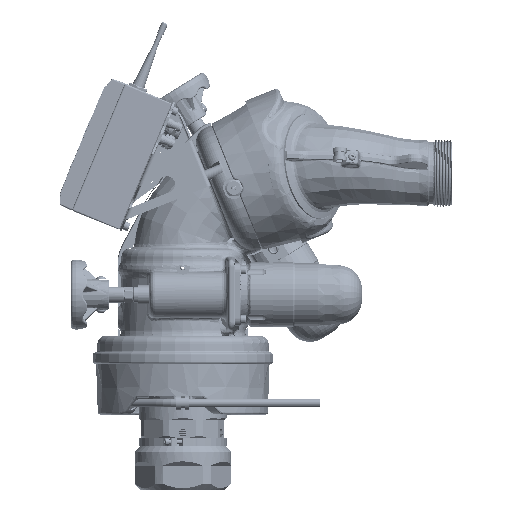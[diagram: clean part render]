
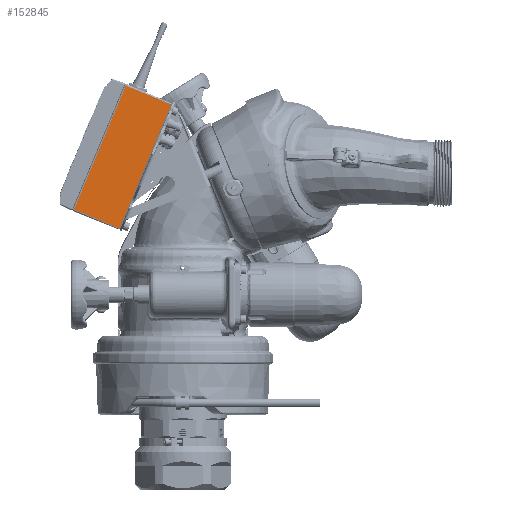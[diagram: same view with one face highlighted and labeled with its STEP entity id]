
A CAD part, top view. The second image highlights one B-rep face of the part: STEP entity #152845.
In plain terms, the highlighted planar face has unit normal (0.013, -0.005, 1).
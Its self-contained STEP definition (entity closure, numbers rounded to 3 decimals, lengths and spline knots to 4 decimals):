
#5373 = VECTOR ( 'NONE', #192568, 39.3701 ) ;
#9421 = EDGE_CURVE ( 'NONE', #116423, #166444, #163745, .T. ) ;
#10701 = CARTESIAN_POINT ( 'NONE',  ( -4.0321, 6.9424, 2.5198 ) ) ;
#17894 = CARTESIAN_POINT ( 'NONE',  ( -6.1696, 7.836, 2.5521 ) ) ;
#25824 = CARTESIAN_POINT ( 'NONE',  ( -6.4005, 1.2775, 2.5198 ) ) ;
#26499 = LINE ( 'NONE', #99726, #28866 ) ;
#28866 = VECTOR ( 'NONE', #148427, 39.3701 ) ;
#37543 = CARTESIAN_POINT ( 'NONE',  ( -8.4725, 2.1438, 2.5511 ) ) ;
#38565 = EDGE_CURVE ( 'NONE', #55718, #166444, #26499, .T. ) ;
#52022 = DIRECTION ( 'NONE',  ( -0.386, -0.923, 0. ) ) ;
#55718 = VERTEX_POINT ( 'NONE', #25824 ) ;
#55745 = ORIENTED_EDGE ( 'NONE', *, *, #38565, .F. ) ;
#63229 = PLANE ( 'NONE',  #70628 ) ;
#65390 = VECTOR ( 'NONE', #52022, 39.3701 ) ;
#65916 = DIRECTION ( 'NONE',  ( -0.923, 0.386, 0.014 ) ) ;
#70628 = AXIS2_PLACEMENT_3D ( 'NONE', #93497, #79723, #189550 ) ;
#73866 = CARTESIAN_POINT ( 'NONE',  ( -8.4725, 2.1438, 2.5511 ) ) ;
#79723 = DIRECTION ( 'NONE',  ( 0.013, -0.005, 1. ) ) ;
#82730 = CARTESIAN_POINT ( 'NONE',  ( -4.0321, 6.9424, 2.5198 ) ) ;
#84805 = LINE ( 'NONE', #17894, #153536 ) ;
#88593 = EDGE_CURVE ( 'NONE', #181859, #116423, #84805, .T. ) ;
#93497 = CARTESIAN_POINT ( 'NONE',  ( -8.5379, 2.1712, 2.5521 ) ) ;
#99726 = CARTESIAN_POINT ( 'NONE',  ( -8.5379, 2.1712, 2.5521 ) ) ;
#116423 = VERTEX_POINT ( 'NONE', #186765 ) ;
#118988 = EDGE_CURVE ( 'NONE', #55718, #181859, #160386, .T. ) ;
#144799 = EDGE_LOOP ( 'NONE', ( #55745, #147008, #171840, #159468 ) ) ;
#147008 = ORIENTED_EDGE ( 'NONE', *, *, #118988, .T. ) ;
#148427 = DIRECTION ( 'NONE',  ( -0.923, 0.386, 0.014 ) ) ;
#152845 = ADVANCED_FACE ( 'NONE', ( #181490 ), #63229, .T. ) ;
#153536 = VECTOR ( 'NONE', #65916, 39.3701 ) ;
#159468 = ORIENTED_EDGE ( 'NONE', *, *, #9421, .T. ) ;
#160386 = LINE ( 'NONE', #82730, #5373 ) ;
#163745 = LINE ( 'NONE', #37543, #65390 ) ;
#166444 = VERTEX_POINT ( 'NONE', #73866 ) ;
#171840 = ORIENTED_EDGE ( 'NONE', *, *, #88593, .T. ) ;
#181490 = FACE_OUTER_BOUND ( 'NONE', #144799, .T. ) ;
#181859 = VERTEX_POINT ( 'NONE', #10701 ) ;
#186765 = CARTESIAN_POINT ( 'NONE',  ( -6.1041, 7.8086, 2.5511 ) ) ;
#189550 = DIRECTION ( 'NONE',  ( -0.923, 0.386, 0.014 ) ) ;
#192568 = DIRECTION ( 'NONE',  ( 0.386, 0.923, 0. ) ) ;
